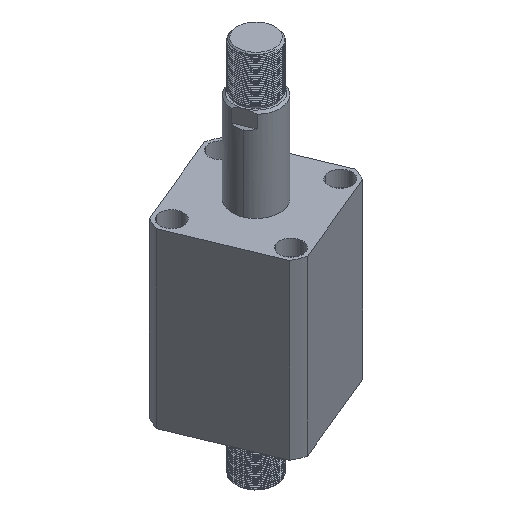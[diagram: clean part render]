
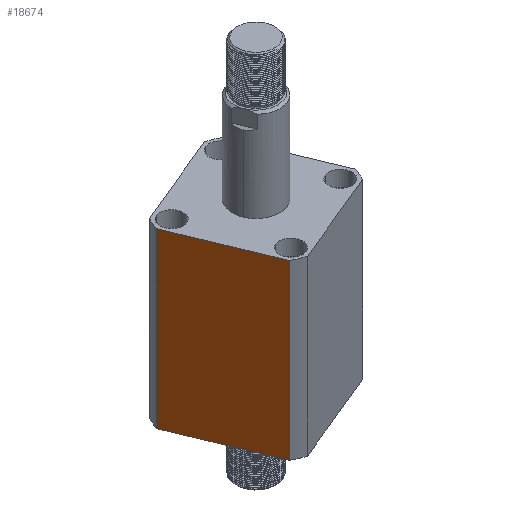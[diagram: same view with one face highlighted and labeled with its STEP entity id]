
A CAD part, isometric view. The second image highlights one B-rep face of the part: STEP entity #18674.
In plain terms, the highlighted planar face has unit normal (-0.924, -0.383, 0) as drawn and (0, 1, 0) by its records, which use the part's own axes.
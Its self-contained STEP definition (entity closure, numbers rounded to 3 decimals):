
#88 = EDGE_CURVE ( 'NONE', #19384, #26005, #25810, .T. ) ;
#241 = VECTOR ( 'NONE', #2153, 1000. ) ;
#1235 = ORIENTED_EDGE ( 'NONE', *, *, #88, .F. ) ;
#1480 = CARTESIAN_POINT ( 'NONE',  ( 47.971, 57., -137. ) ) ;
#1747 = AXIS2_PLACEMENT_3D ( 'NONE', #15383, #7439, #21526 ) ;
#2153 = DIRECTION ( 'NONE',  ( 0., 0., -1. ) ) ;
#2784 = CARTESIAN_POINT ( 'NONE',  ( -47.971, 57., 163. ) ) ;
#2801 = ORIENTED_EDGE ( 'NONE', *, *, #6194, .T. ) ;
#3517 = DIRECTION ( 'NONE',  ( 0., 0., 1. ) ) ;
#3851 = CARTESIAN_POINT ( 'NONE',  ( -57., 57., 0. ) ) ;
#5287 = FACE_OUTER_BOUND ( 'NONE', #21947, .T. ) ;
#5308 = CARTESIAN_POINT ( 'NONE',  ( -57., 57., 163. ) ) ;
#5584 = LINE ( 'NONE', #5308, #21655 ) ;
#6194 = EDGE_CURVE ( 'NONE', #7419, #26005, #23258, .T. ) ;
#6502 = CARTESIAN_POINT ( 'NONE',  ( 47.971, 57., 163. ) ) ;
#7162 = EDGE_CURVE ( 'NONE', #13491, #19384, #5584, .T. ) ;
#7403 = DIRECTION ( 'NONE',  ( -1., 0., 0. ) ) ;
#7419 = VERTEX_POINT ( 'NONE', #11791 ) ;
#7439 = DIRECTION ( 'NONE',  ( 0., -1., 0. ) ) ;
#9123 = CARTESIAN_POINT ( 'NONE',  ( -47.971, 57., 0. ) ) ;
#11791 = CARTESIAN_POINT ( 'NONE',  ( 47.971, 57., 0. ) ) ;
#12527 = VECTOR ( 'NONE', #13900, 1000. ) ;
#13491 = VERTEX_POINT ( 'NONE', #6502 ) ;
#13900 = DIRECTION ( 'NONE',  ( -1., 0., 0. ) ) ;
#14024 = LINE ( 'NONE', #1480, #24125 ) ;
#14241 = CARTESIAN_POINT ( 'NONE',  ( -47.971, 57., -137. ) ) ;
#15383 = CARTESIAN_POINT ( 'NONE',  ( -57., 57., 163. ) ) ;
#18674 = ADVANCED_FACE ( 'NONE', ( #5287 ), #19518, .F. ) ;
#19384 = VERTEX_POINT ( 'NONE', #2784 ) ;
#19405 = ORIENTED_EDGE ( 'NONE', *, *, #21208, .F. ) ;
#19518 = PLANE ( 'NONE',  #1747 ) ;
#21208 = EDGE_CURVE ( 'NONE', #7419, #13491, #14024, .T. ) ;
#21526 = DIRECTION ( 'NONE',  ( 0., 0., -1. ) ) ;
#21655 = VECTOR ( 'NONE', #7403, 1000. ) ;
#21947 = EDGE_LOOP ( 'NONE', ( #19405, #2801, #1235, #22441 ) ) ;
#22441 = ORIENTED_EDGE ( 'NONE', *, *, #7162, .F. ) ;
#23258 = LINE ( 'NONE', #3851, #12527 ) ;
#24125 = VECTOR ( 'NONE', #3517, 1000. ) ;
#25810 = LINE ( 'NONE', #14241, #241 ) ;
#26005 = VERTEX_POINT ( 'NONE', #9123 ) ;
